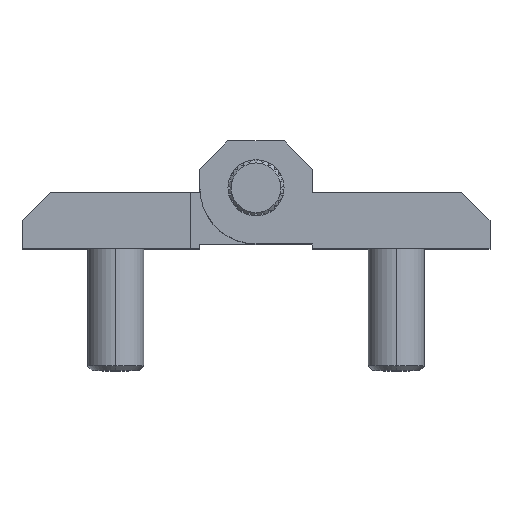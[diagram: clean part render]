
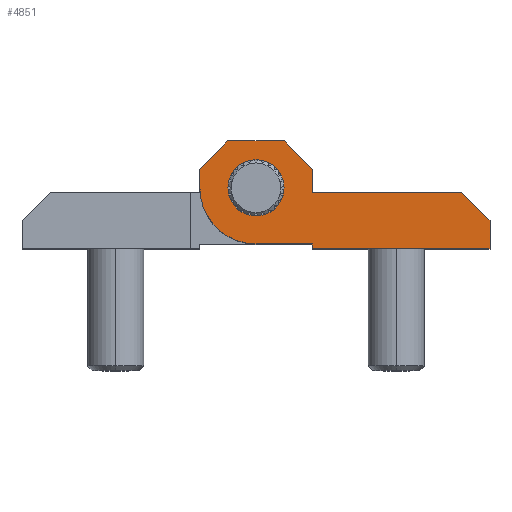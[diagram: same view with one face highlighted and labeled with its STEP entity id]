
A CAD part, top view. The second image highlights one B-rep face of the part: STEP entity #4851.
In plain terms, the highlighted planar face has unit normal (0, 0, 1).
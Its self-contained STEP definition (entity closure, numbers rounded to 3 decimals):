
#12 = CARTESIAN_POINT ( 'NONE',  ( 3., 5., 25. ) ) ;
#97 = CARTESIAN_POINT ( 'NONE',  ( 25., -3.5, 25. ) ) ;
#133 = ORIENTED_EDGE ( 'NONE', *, *, #3133, .F. ) ;
#158 = DIRECTION ( 'NONE',  ( 0., 0., 1. ) ) ;
#194 = ORIENTED_EDGE ( 'NONE', *, *, #3134, .T. ) ;
#223 = CIRCLE ( 'NONE', #3897, 6. ) ;
#242 = VERTEX_POINT ( 'NONE', #1845 ) ;
#277 = FACE_BOUND ( 'NONE', #3870, .T. ) ;
#448 = DIRECTION ( 'NONE',  ( -0.707, -0.707, 0. ) ) ;
#460 = VERTEX_POINT ( 'NONE', #2499 ) ;
#495 = DIRECTION ( 'NONE',  ( 1., 0., 0. ) ) ;
#509 = CARTESIAN_POINT ( 'NONE',  ( -3., 0., 25. ) ) ;
#545 = VECTOR ( 'NONE', #448, 1000. ) ;
#577 = VECTOR ( 'NONE', #495, 1000. ) ;
#611 = EDGE_CURVE ( 'NONE', #5093, #3896, #3497, .T. ) ;
#621 = DIRECTION ( 'NONE',  ( -1., 0., 0. ) ) ;
#662 = VERTEX_POINT ( 'NONE', #4584 ) ;
#671 = LINE ( 'NONE', #894, #545 ) ;
#754 = VECTOR ( 'NONE', #2549, 1000. ) ;
#770 = EDGE_CURVE ( 'NONE', #4811, #242, #5221, .T. ) ;
#843 = VECTOR ( 'NONE', #2036, 1000. ) ;
#848 = CARTESIAN_POINT ( 'NONE',  ( 6., -6., 25. ) ) ;
#893 = LINE ( 'NONE', #2132, #754 ) ;
#894 = CARTESIAN_POINT ( 'NONE',  ( -3., 5., 25. ) ) ;
#1012 = CARTESIAN_POINT ( 'NONE',  ( 3., 5., 25. ) ) ;
#1015 = AXIS2_PLACEMENT_3D ( 'NONE', #3808, #1331, #4223 ) ;
#1134 = ORIENTED_EDGE ( 'NONE', *, *, #4924, .T. ) ;
#1202 = PLANE ( 'NONE',  #2089 ) ;
#1251 = EDGE_CURVE ( 'NONE', #1580, #1506, #1612, .T. ) ;
#1331 = DIRECTION ( 'NONE',  ( 0., 0., 1. ) ) ;
#1506 = VERTEX_POINT ( 'NONE', #1817 ) ;
#1542 = CARTESIAN_POINT ( 'NONE',  ( 25., -6.5, 25. ) ) ;
#1580 = VERTEX_POINT ( 'NONE', #3891 ) ;
#1612 = LINE ( 'NONE', #3042, #4781 ) ;
#1639 = DIRECTION ( 'NONE',  ( 0., 0., 1. ) ) ;
#1656 = DIRECTION ( 'NONE',  ( -1., 0., 0. ) ) ;
#1717 = CARTESIAN_POINT ( 'NONE',  ( 25., -6.5, 25. ) ) ;
#1750 = ORIENTED_EDGE ( 'NONE', *, *, #4639, .T. ) ;
#1771 = DIRECTION ( 'NONE',  ( -0.707, 0.707, 0. ) ) ;
#1772 = CARTESIAN_POINT ( 'NONE',  ( -6., 2., 25. ) ) ;
#1778 = ORIENTED_EDGE ( 'NONE', *, *, #3832, .T. ) ;
#1817 = CARTESIAN_POINT ( 'NONE',  ( 6., -0.5, 25. ) ) ;
#1845 = CARTESIAN_POINT ( 'NONE',  ( -3., 5., 25. ) ) ;
#1867 = LINE ( 'NONE', #1717, #3911 ) ;
#1870 = ORIENTED_EDGE ( 'NONE', *, *, #611, .F. ) ;
#1991 = LINE ( 'NONE', #2878, #843 ) ;
#1994 = ORIENTED_EDGE ( 'NONE', *, *, #2289, .T. ) ;
#2036 = DIRECTION ( 'NONE',  ( -0.707, 0.707, 0. ) ) ;
#2089 = AXIS2_PLACEMENT_3D ( 'NONE', #3289, #1639, #4515 ) ;
#2123 = EDGE_CURVE ( 'NONE', #2926, #4811, #1991, .T. ) ;
#2132 = CARTESIAN_POINT ( 'NONE',  ( 6., -6.5, 25. ) ) ;
#2217 = EDGE_CURVE ( 'NONE', #4087, #5392, #1867, .T. ) ;
#2289 = EDGE_CURVE ( 'NONE', #460, #2309, #3776, .T. ) ;
#2292 = ORIENTED_EDGE ( 'NONE', *, *, #5158, .T. ) ;
#2309 = VERTEX_POINT ( 'NONE', #4070 ) ;
#2499 = CARTESIAN_POINT ( 'NONE',  ( 6., -6., 25. ) ) ;
#2549 = DIRECTION ( 'NONE',  ( 1., 0., 0. ) ) ;
#2557 = VECTOR ( 'NONE', #4208, 1000. ) ;
#2601 = EDGE_LOOP ( 'NONE', ( #1994, #1134, #3647, #1778, #3328, #1750, #4383, #4550, #194, #4425, #2292, #3829 ) ) ;
#2722 = CARTESIAN_POINT ( 'NONE',  ( 0., 0., 25. ) ) ;
#2832 = LINE ( 'NONE', #4697, #577 ) ;
#2878 = CARTESIAN_POINT ( 'NONE',  ( 6., 2., 25. ) ) ;
#2926 = VERTEX_POINT ( 'NONE', #5110 ) ;
#2994 = CARTESIAN_POINT ( 'NONE',  ( 0., 0., 25. ) ) ;
#3012 = DIRECTION ( 'NONE',  ( 0., 0., 1. ) ) ;
#3039 = VECTOR ( 'NONE', #621, 1000. ) ;
#3042 = CARTESIAN_POINT ( 'NONE',  ( 22., -0.5, 25. ) ) ;
#3069 = AXIS2_PLACEMENT_3D ( 'NONE', #2994, #3012, #3251 ) ;
#3131 = DIRECTION ( 'NONE',  ( 1., 0., 0. ) ) ;
#3133 = EDGE_CURVE ( 'NONE', #3896, #5093, #3887, .T. ) ;
#3134 = EDGE_CURVE ( 'NONE', #242, #3854, #671, .T. ) ;
#3251 = DIRECTION ( 'NONE',  ( 1., 0., 0. ) ) ;
#3289 = CARTESIAN_POINT ( 'NONE',  ( 0., 0., 25. ) ) ;
#3328 = ORIENTED_EDGE ( 'NONE', *, *, #1251, .T. ) ;
#3333 = VECTOR ( 'NONE', #3663, 1000. ) ;
#3361 = VERTEX_POINT ( 'NONE', #4827 ) ;
#3450 = LINE ( 'NONE', #4493, #3333 ) ;
#3497 = CIRCLE ( 'NONE', #3069, 3. ) ;
#3647 = ORIENTED_EDGE ( 'NONE', *, *, #2217, .T. ) ;
#3663 = DIRECTION ( 'NONE',  ( 0., 1., 0. ) ) ;
#3758 = LINE ( 'NONE', #1772, #2557 ) ;
#3767 = LINE ( 'NONE', #3813, #4617 ) ;
#3776 = LINE ( 'NONE', #848, #4763 ) ;
#3780 = DIRECTION ( 'NONE',  ( 0., 1., 0. ) ) ;
#3808 = CARTESIAN_POINT ( 'NONE',  ( 0., 0., 25. ) ) ;
#3813 = CARTESIAN_POINT ( 'NONE',  ( 25., -3.5, 25. ) ) ;
#3829 = ORIENTED_EDGE ( 'NONE', *, *, #5334, .T. ) ;
#3832 = EDGE_CURVE ( 'NONE', #5392, #1580, #3767, .T. ) ;
#3854 = VERTEX_POINT ( 'NONE', #4676 ) ;
#3870 = EDGE_LOOP ( 'NONE', ( #133, #1870 ) ) ;
#3887 = CIRCLE ( 'NONE', #1015, 3. ) ;
#3891 = CARTESIAN_POINT ( 'NONE',  ( 22., -0.5, 25. ) ) ;
#3896 = VERTEX_POINT ( 'NONE', #509 ) ;
#3897 = AXIS2_PLACEMENT_3D ( 'NONE', #2722, #158, #3131 ) ;
#3911 = VECTOR ( 'NONE', #3780, 1000. ) ;
#4070 = CARTESIAN_POINT ( 'NONE',  ( 6., -6.5, 25. ) ) ;
#4087 = VERTEX_POINT ( 'NONE', #1542 ) ;
#4208 = DIRECTION ( 'NONE',  ( 0., -1., 0. ) ) ;
#4223 = DIRECTION ( 'NONE',  ( 1., 0., 0. ) ) ;
#4383 = ORIENTED_EDGE ( 'NONE', *, *, #2123, .T. ) ;
#4425 = ORIENTED_EDGE ( 'NONE', *, *, #4814, .T. ) ;
#4493 = CARTESIAN_POINT ( 'NONE',  ( 6., -0.5, 25. ) ) ;
#4515 = DIRECTION ( 'NONE',  ( 1., 0., 0. ) ) ;
#4550 = ORIENTED_EDGE ( 'NONE', *, *, #770, .T. ) ;
#4584 = CARTESIAN_POINT ( 'NONE',  ( 0., -6., 25. ) ) ;
#4603 = FACE_OUTER_BOUND ( 'NONE', #2601, .T. ) ;
#4617 = VECTOR ( 'NONE', #1771, 1000. ) ;
#4639 = EDGE_CURVE ( 'NONE', #1506, #2926, #3450, .T. ) ;
#4676 = CARTESIAN_POINT ( 'NONE',  ( -6., 2., 25. ) ) ;
#4697 = CARTESIAN_POINT ( 'NONE',  ( 0., -6., 25. ) ) ;
#4724 = CARTESIAN_POINT ( 'NONE',  ( 3., 0., 25. ) ) ;
#4763 = VECTOR ( 'NONE', #5386, 1000. ) ;
#4781 = VECTOR ( 'NONE', #1656, 1000. ) ;
#4811 = VERTEX_POINT ( 'NONE', #12 ) ;
#4814 = EDGE_CURVE ( 'NONE', #3854, #3361, #3758, .T. ) ;
#4827 = CARTESIAN_POINT ( 'NONE',  ( -6., 0., 25. ) ) ;
#4851 = ADVANCED_FACE ( 'NONE', ( #4603, #277 ), #1202, .T. ) ;
#4924 = EDGE_CURVE ( 'NONE', #2309, #4087, #893, .T. ) ;
#5093 = VERTEX_POINT ( 'NONE', #4724 ) ;
#5110 = CARTESIAN_POINT ( 'NONE',  ( 6., 2., 25. ) ) ;
#5158 = EDGE_CURVE ( 'NONE', #3361, #662, #223, .T. ) ;
#5221 = LINE ( 'NONE', #1012, #3039 ) ;
#5334 = EDGE_CURVE ( 'NONE', #662, #460, #2832, .T. ) ;
#5386 = DIRECTION ( 'NONE',  ( 0., -1., 0. ) ) ;
#5392 = VERTEX_POINT ( 'NONE', #97 ) ;
